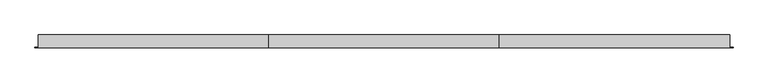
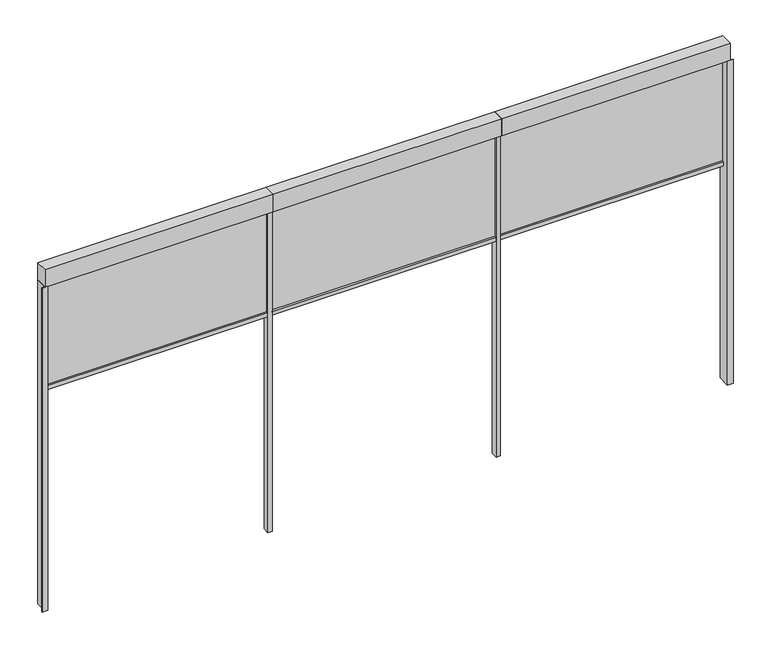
"""IFC4 building model written with IfcOpenShell, lengths in millimetres: proxy geometry, Renson_Fixscreen_Minimal_IM7B_With_CF : Recessed - Front of the window - Medium-CF - Access downwards - Fabric away from the window."""

from ifc_helpers import new_model, si_unit, frame, origin, place, context, project, spatial, polyline, outline, extrude, source, transform, mapped, element, save


def generic_models_d797c312(model_context):
    return source(origin(), model_context, "Body", "SweptSolid", [
        extrude(outline(polyline([(-1874.95, 49.0), (-1874.95, 52.0), (82.75, 52.0), (82.75, 49.0), (-1874.95, 49.0)])), frame((0.0, 0.0, 2812.5006852), z_axis=(0.0, 0.0, 1.0), x_axis=(1.0, 0.0, 0.0)), (0.0, 0.0, 1.0), 987.4993148),
        extrude(outline(polyline([(119.35, 49.0), (119.35, 52.0), (2082.75, 52.0), (2082.75, 49.0), (119.35, 49.0)])), frame((0.0, 0.0, 2812.5006852), z_axis=(0.0, 0.0, 1.0), x_axis=(1.0, 0.0, 0.0)), (0.0, 0.0, 1.0), 987.4993148),
        extrude(outline(polyline([(70.95, 2800.0), (30.45, 2800.0), (30.45, 2834.1156799), (47.85, 2835.0275753), (47.85, 2812.5006852), (53.55, 2812.5006852), (53.55, 2835.0275753), (70.95, 2834.1156799), (70.95, 2800.0)])), frame((-1874.95, 0.0, 0.0), z_axis=(1.0, 0.0, 0.0), x_axis=(0.0, 1.0, 0.0)), (0.0, 0.0, 1.0), 1957.7),
        extrude(outline(polyline([(70.95, 2800.0), (30.45, 2800.0), (30.45, 2834.1156799), (47.85, 2835.0275753), (47.85, 2812.5006852), (53.55, 2812.5006852), (53.55, 2835.0275753), (70.95, 2834.1156799), (70.95, 2800.0)])), frame((119.35, 0.0, 0.0), z_axis=(1.0, 0.0, 0.0), x_axis=(0.0, 1.0, 0.0)), (0.0, 0.0, 1.0), 1963.4),
        extrude(outline(polyline([(70.9955279, 2800.0), (30.4955279, 2800.0), (30.4955279, 2834.1156799), (47.8955279, 2835.0275753), (47.8955279, 2812.5006852), (53.5955279, 2812.5006852), (53.5955279, 2835.0275753), (70.9955279, 2834.1156799), (70.9955279, 2800.0)])), frame((2119.3, 0.0, 0.0), z_axis=(1.0, 0.0, 0.0), x_axis=(0.0, 1.0, 0.0)), (0.0, 0.0, 1.0), 1957.7),
        extrude(outline(polyline([(2119.3, 49.0), (2119.3, 52.0), (4077.0, 52.0), (4077.0, 49.0), (2119.3, 49.0)])), frame((0.0, 0.0, 2812.5006852), z_axis=(0.0, 0.0, 1.0), x_axis=(1.0, 0.0, 0.0)), (0.0, 0.0, 1.0), 987.4993148),
        extrude(outline(polyline([(-1899.0, 85.0), (-1875.0, 85.0), (-1875.0, -25.0), (-1925.9999912, -25.0), (-1925.9999912, -21.0), (-1899.0, -21.0), (-1899.0, 85.0)])), frame((0.0, 0.0, 800.0), z_axis=(0.0, 0.0, 1.0), x_axis=(1.0, 0.0, 0.0)), (0.0, 0.0, 1.0), 3000.0),
        extrude(outline(polyline([(4077.0, -25.0), (4077.0, 85.0), (4101.0, 85.0), (4101.0, -21.0), (4128.0, -21.0), (4128.0, -25.0), (4077.0, -25.0)])), frame((0.0, 0.0, 800.0), z_axis=(0.0, 0.0, 1.0), x_axis=(1.0, 0.0, 0.0)), (0.0, 0.0, 1.0), 3000.0),
        extrude(outline(polyline([(2101.0, -25.0), (2101.0, 85.0), (4101.0, 85.0), (4101.0, -25.0), (2101.0, -25.0)])), frame((0.0, 0.0, 3800.0), z_axis=(0.0, 0.0, 1.0), x_axis=(1.0, 0.0, 0.0)), (0.0, 0.0, 1.0), 160.0),
        extrude(outline(polyline([(101.0, -25.0), (101.0, 85.0), (2101.0, 85.0), (2101.0, -25.0), (101.0, -25.0)])), frame((0.0, 0.0, 3800.0), z_axis=(0.0, 0.0, 1.0), x_axis=(1.0, 0.0, 0.0)), (0.0, 0.0, 1.0), 160.0),
        extrude(outline(polyline([(-1899.0, -25.0), (-1899.0, 85.0), (101.0, 85.0), (101.0, -25.0), (-1899.0, -25.0)])), frame((0.0, 0.0, 3800.0), z_axis=(0.0, 0.0, 1.0), x_axis=(1.0, 0.0, 0.0)), (0.0, 0.0, 1.0), 160.0),
        extrude(outline(polyline([(119.25, 85.0), (119.25, 28.75), (82.75, 28.75), (82.75, 85.0), (119.25, 85.0)])), frame((0.0, 0.0, 800.0), z_axis=(0.0, 0.0, 1.0), x_axis=(1.0, 0.0, 0.0)), (0.0, 0.0, 1.0), 3000.0),
        extrude(outline(polyline([(2119.25, 85.0), (2119.25, 28.75), (2082.75, 28.75), (2082.75, 85.0), (2119.25, 85.0)])), frame((0.0, 0.0, 800.0), z_axis=(0.0, 0.0, 1.0), x_axis=(1.0, 0.0, 0.0)), (0.0, 0.0, 1.0), 3000.0),
    ])


if __name__ == "__main__":
    model = new_model("IFC4")
    model_context = context("Model", 3, world=origin())
    ifc_project = project(units=[si_unit("LENGTHUNIT", "METRE", prefix="MILLI")], contexts=[model_context])
    site = spatial("IfcSite", under=ifc_project)
    building = spatial("IfcBuilding", under=site)
    placement = place(None, origin())
    generic_models_shape = generic_models_d797c312(model_context)
    element("IfcBuildingElementProxy", 1, Name="Renson_Fixscreen_Minimal_IM7B_With_CF : Recessed - Front of the window - Medium-CF - Access downwards - Fabric away from the window", ObjectType="Renson_Fixscreen_Minimal_IM7B_With_CF : Recessed - Front of the window - Medium-CF - Access downwards - Fabric away from the window", at=placement, inside=building, context=model_context, shape_type="MappedRepresentation", body=[
        mapped(generic_models_shape, transform((0.0, 0.0, 0.0), x_axis=(1.0, 0.0, 0.0), y_axis=(0.0, 1.0, 0.0), z_axis=(0.0, 0.0, 1.0))),
    ])
    save(model, "model.ifc")
